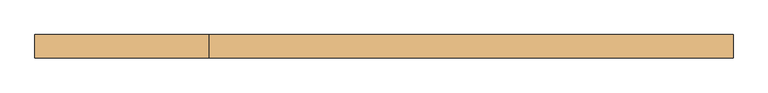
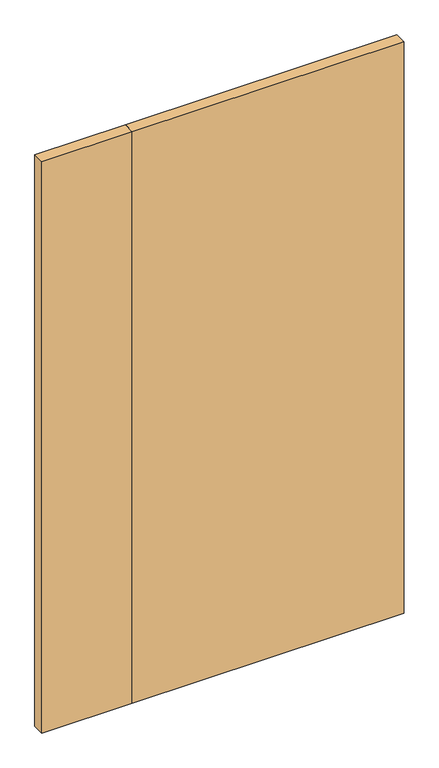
"""IFC4 building model written with IfcOpenShell, lengths in millimetres: door geometry, 営_親子扉 : LD2 1200*2000."""

from ifc_helpers import new_model, si_unit, origin, origin_with_axes, place, context, project, spatial, polyline, outline, extrude, source, transform, mapped, element, save


def door_18b0804b(model_context):
    return source(origin(), model_context, "Body", "SweptSolid", [
        extrude(outline(polyline([(-300.0, 15.0), (-300.0, 55.0), (600.0, 55.0), (600.0, 15.0), (-300.0, 15.0)])), origin_with_axes(), (0.0, 0.0, 1.0), 2000.0),
        extrude(outline(polyline([(-300.0, 15.0), (-600.0, 15.0), (-600.0, 55.0), (-300.0, 55.0), (-300.0, 15.0)])), origin_with_axes(), (0.0, 0.0, 1.0), 2000.0),
    ])


if __name__ == "__main__":
    model = new_model("IFC4")
    model_context = context("Model", 3, world=origin())
    ifc_project = project(units=[si_unit("LENGTHUNIT", "METRE", prefix="MILLI")], contexts=[model_context])
    site = spatial("IfcSite", under=ifc_project)
    building = spatial("IfcBuilding", under=site)
    placement = place(None, origin())
    door_shape = door_18b0804b(model_context)
    element("IfcDoor", 1, ObjectType="営_親子扉 : LD2 1200*2000", at=placement, inside=building, context=model_context, shape_type="MappedRepresentation", body=[
        mapped(door_shape, transform((0.0, 0.0, 0.0), x_axis=(1.0, 0.0, 0.0), y_axis=(0.0, 1.0, 0.0), z_axis=(0.0, 0.0, 1.0))),
    ])
    save(model, "model.ifc")
